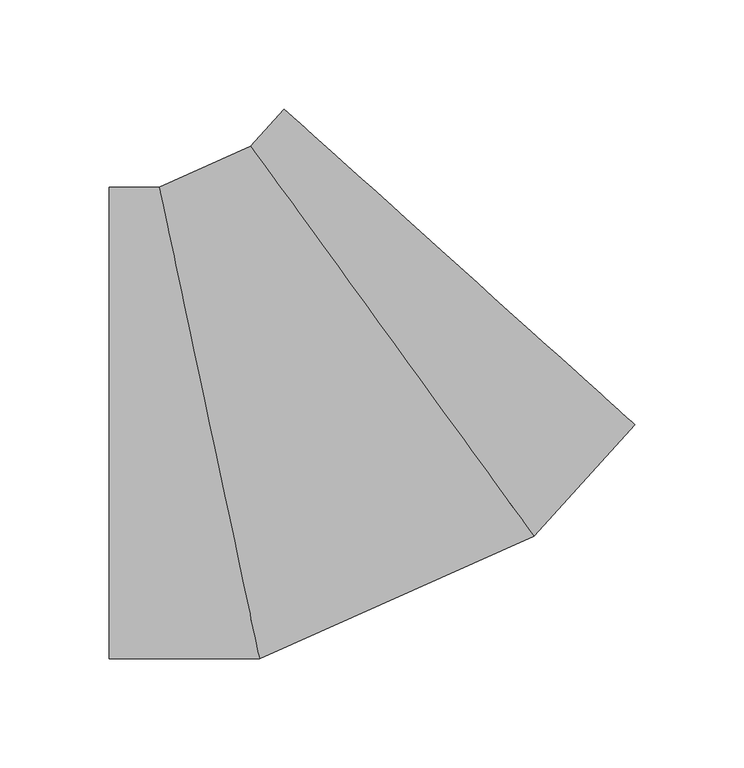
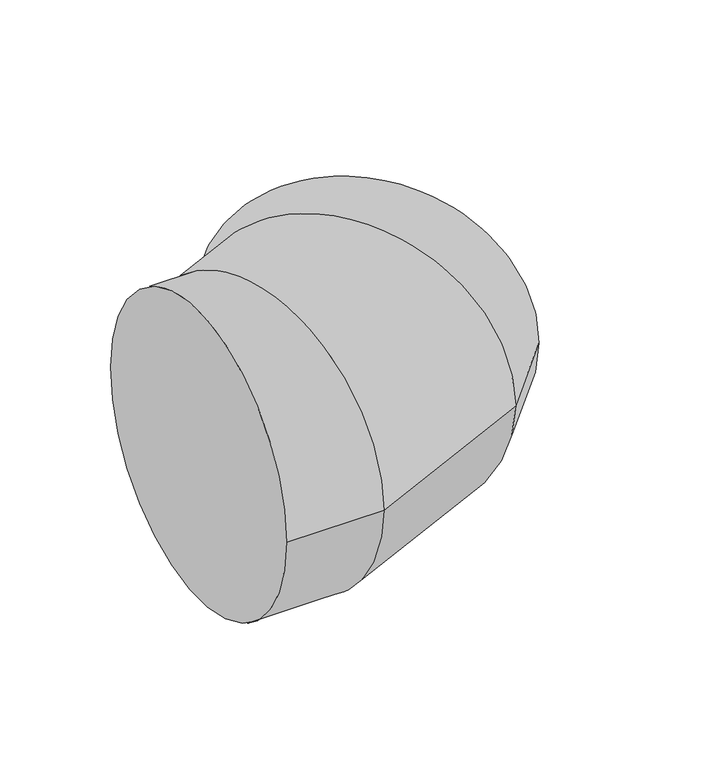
"""IFC4 building model written with IfcOpenShell, lengths in millimetres: duct fitting geometry, 17_Отвод_Заключение : 10_Отвод_3D объект."""

from ifc_helpers import new_model, si_unit, frame, origin, place, context, project, spatial, circle_curve, ellipse_curve, source, transform, mapped, element, save
from ifc_brep_helpers import plane_surface, cylinder_surface, advanced_brep


def duct_fitting_11af5ff6(model_context):
    return source(origin(), model_context, "Body", "AdvancedBrep", [
        advanced_brep(
        [(-96.2361351, -108.0, 0.0), (-96.2361351, 108.0, 0.0), (-27.324152, -108.0, 0.0), (-73.2654741, 108.0, 0.0), (98.5698485, -51.9094813, 0.0), (-31.3008072, 126.6968396, 0.0), (144.6545514, -0.6741266, 0.0), (-15.9392396, 143.7752911, 0.0)],
        [
            (0, 1, circle_curve(frame((-96.2361351, 0.0, 0.0), z_axis=(-1.0, 0.0, 0.0), x_axis=(0.0, 1.0, 0.0)), 108.0)),
            (1, 0, circle_curve(frame((-96.2361351, 0.0, 0.0), z_axis=(-1.0, 0.0, 0.0), x_axis=(0.0, 1.0, 0.0)), 108.0)),
            (0, 2),
            (2, 3, ellipse_curve(frame((-50.294813, 0.0, 0.0), z_axis=(-0.9781207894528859, -0.20803778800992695, 0.0), x_axis=(-0.2080377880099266, 0.9781207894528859, 0.0)), 110.4158108, 108.0)),
            (3, 1),
            (3, 2, ellipse_curve(frame((-50.294813, 0.0, 0.0), z_axis=(-0.9781207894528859, -0.20803778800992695, 0.0), x_axis=(-0.2080377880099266, 0.9781207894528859, 0.0)), 110.4158108, 108.0)),
            (2, 4),
            (4, 5, ellipse_curve(frame((33.6345206, 37.3936792, 0.0), z_axis=(-0.808789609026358, -0.588098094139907, 0.0), x_axis=(-0.5880980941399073, 0.8087896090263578, 0.0)), 110.4158108, 108.0)),
            (5, 3),
            (5, 4, ellipse_curve(frame((33.6345206, 37.3936792, 0.0), z_axis=(-0.808789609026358, -0.588098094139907, 0.0), x_axis=(-0.5880980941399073, 0.8087896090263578, 0.0)), 110.4158108, 108.0)),
            (4, 6),
            (6, 7, circle_curve(frame((64.3576559, 71.5505823, 0.0), z_axis=(-0.6687473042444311, -0.7434897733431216, 0.0), x_axis=(-0.7434897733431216, 0.6687473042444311, 0.0)), 108.0)),
            (7, 5),
            (7, 6, circle_curve(frame((64.3576559, 71.5505823, 0.0), z_axis=(-0.6687473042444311, -0.7434897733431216, 0.0), x_axis=(-0.7434897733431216, 0.6687473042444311, 0.0)), 108.0)),
        ],
        [
            plane_surface(frame((-96.2361351, 0.0, 0.0), z_axis=(-1.0, 0.0, 0.0), x_axis=(0.0, 0.0, 1.0))),
            cylinder_surface(frame((-96.2361351, 0.0, 0.0), z_axis=(-1.0, 0.0, 0.0), x_axis=(0.0, 1.0, 0.0)), 108.0),
            cylinder_surface(frame((-50.294813, 0.0, 0.0), z_axis=(-0.9134405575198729, -0.40697217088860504, 0.0), x_axis=(-0.40697217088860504, 0.9134405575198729, 0.0)), 108.0),
            cylinder_surface(frame((33.6345206, 37.3936792, 0.0), z_axis=(-0.6687473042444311, -0.7434897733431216, 0.0), x_axis=(-0.7434897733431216, 0.6687473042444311, 0.0)), 108.0),
            plane_surface(frame((64.3576559, 71.5505823, 0.0), z_axis=(0.6687473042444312, 0.7434897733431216, 0.0), x_axis=(0.0, 0.0, 1.0))),
        ],
        [
            (0, [[1, 2]]),
            (1, [[-1, 3, 4, 5]]),
            (1, [[-2, -5, 6, -3]]),
            (2, [[-4, 7, 8, 9]]),
            (2, [[-6, -9, 10, -7]]),
            (3, [[-8, 11, 12, 13]]),
            (3, [[-10, -13, 14, -11]]),
            (4, [[-14, -12]]),
        ],
    ),
    ])


if __name__ == "__main__":
    model = new_model("IFC4")
    model_context = context("Model", 3, world=origin())
    ifc_project = project(units=[si_unit("LENGTHUNIT", "METRE", prefix="MILLI")], contexts=[model_context])
    site = spatial("IfcSite", under=ifc_project)
    building = spatial("IfcBuilding", under=site)
    placement = place(None, origin())
    duct_fitting_shape = duct_fitting_11af5ff6(model_context)
    element("IfcDuctFitting", 1, ObjectType="17_Отвод_Заключение : 10_Отвод_3D объект", at=placement, inside=building, context=model_context, shape_type="MappedRepresentation", body=[
        mapped(duct_fitting_shape, transform((0.0, 0.0, 0.0), x_axis=(1.0, 0.0, 0.0), y_axis=(0.0, 1.0, 0.0), z_axis=(0.0, 0.0, 1.0))),
    ])
    save(model, "model.ifc")
